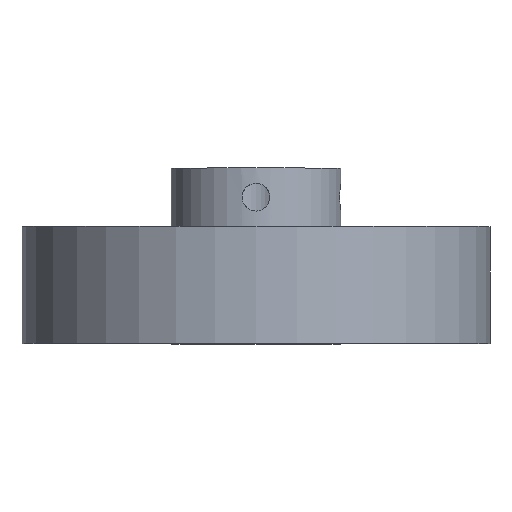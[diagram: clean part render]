
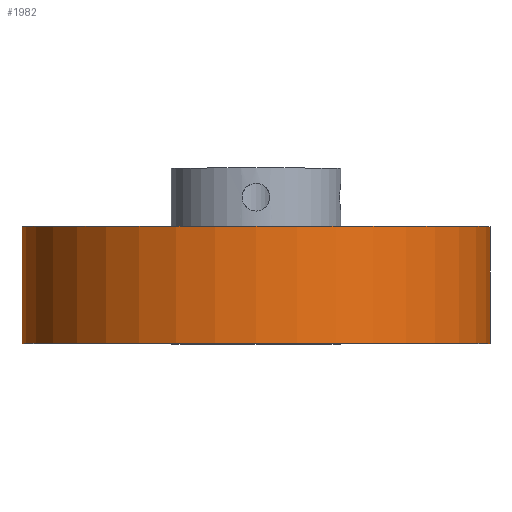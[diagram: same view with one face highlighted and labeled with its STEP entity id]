
A CAD part, top view. The second image highlights one B-rep face of the part: STEP entity #1982.
In plain terms, the highlighted cylindrical face has radius 50.8 mm (diameter 101.6 mm), a full revolution.
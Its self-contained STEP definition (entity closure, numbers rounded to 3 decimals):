
#270=FACE_OUTER_BOUND('',#364,.T.);
#364=EDGE_LOOP('',(#1623,#1624,#1625,#1626));
#550=LINE('',#3317,#696);
#696=VECTOR('',#2771,50.8);
#815=CIRCLE('',#2212,50.8);
#816=CIRCLE('',#2213,50.8);
#991=VERTEX_POINT('',#3314);
#992=VERTEX_POINT('',#3316);
#1262=EDGE_CURVE('',#991,#991,#815,.T.);
#1263=EDGE_CURVE('',#991,#992,#550,.T.);
#1264=EDGE_CURVE('',#992,#992,#816,.T.);
#1623=ORIENTED_EDGE('',*,*,#1262,.F.);
#1624=ORIENTED_EDGE('',*,*,#1263,.T.);
#1625=ORIENTED_EDGE('',*,*,#1264,.T.);
#1626=ORIENTED_EDGE('',*,*,#1263,.F.);
#1892=CYLINDRICAL_SURFACE('',#2211,50.8);
#1982=ADVANCED_FACE('',(#270),#1892,.T.);
#2211=AXIS2_PLACEMENT_3D('',#3313,#2767,#2768);
#2212=AXIS2_PLACEMENT_3D('',#3315,#2769,#2770);
#2213=AXIS2_PLACEMENT_3D('',#3318,#2772,#2773);
#2767=DIRECTION('center_axis',(0.,1.,0.));
#2768=DIRECTION('ref_axis',(-1.,0.,0.));
#2769=DIRECTION('center_axis',(0.,1.,0.));
#2770=DIRECTION('ref_axis',(-1.,0.,0.));
#2771=DIRECTION('',(0.,-1.,0.));
#2772=DIRECTION('center_axis',(0.,1.,0.));
#2773=DIRECTION('ref_axis',(-1.,0.,0.));
#3313=CARTESIAN_POINT('Origin',(0.,0.,0.));
#3314=CARTESIAN_POINT('',(50.8,25.4,0.));
#3315=CARTESIAN_POINT('Origin',(0.,25.4,0.));
#3316=CARTESIAN_POINT('',(50.8,0.,0.));
#3317=CARTESIAN_POINT('',(50.8,0.,0.));
#3318=CARTESIAN_POINT('Origin',(0.,0.,0.));
